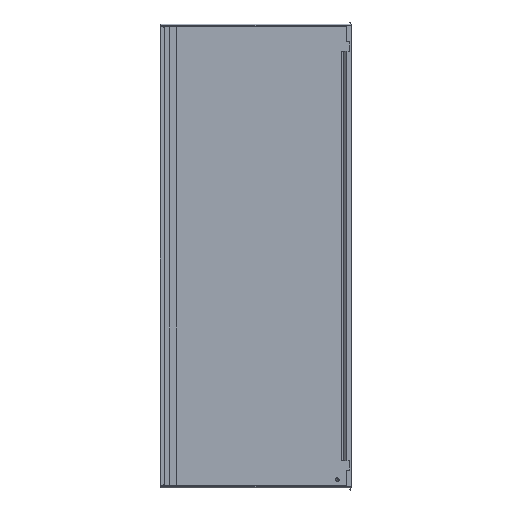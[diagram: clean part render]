
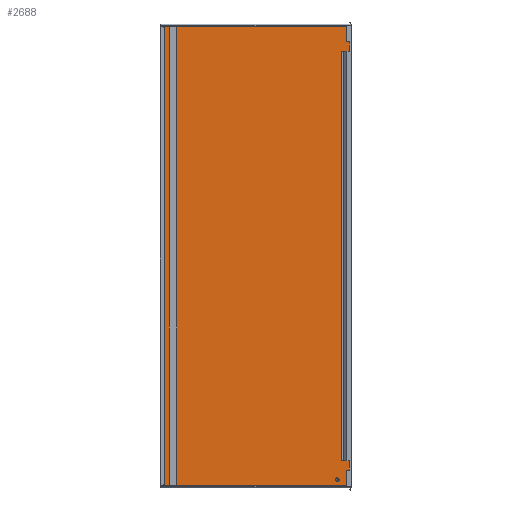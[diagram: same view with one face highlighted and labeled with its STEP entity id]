
A CAD part, top view. The second image highlights one B-rep face of the part: STEP entity #2688.
In plain terms, the highlighted planar face has unit normal (0, 0, 1).
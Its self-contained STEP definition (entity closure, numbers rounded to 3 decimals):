
#254 = ORIENTED_EDGE ( 'NONE', *, *, #3152, .F. ) ;
#255 = ORIENTED_EDGE ( 'NONE', *, *, #3153, .F. ) ;
#256 = ORIENTED_EDGE ( 'NONE', *, *, #3150, .F. ) ;
#257 = ORIENTED_EDGE ( 'NONE', *, *, #3156, .F. ) ;
#265 = ORIENTED_EDGE ( 'NONE', *, *, #3157, .F. ) ;
#266 = ORIENTED_EDGE ( 'NONE', *, *, #3159, .T. ) ;
#267 = ORIENTED_EDGE ( 'NONE', *, *, #3154, .T. ) ;
#268 = ORIENTED_EDGE ( 'NONE', *, *, #3160, .T. ) ;
#271 = ORIENTED_EDGE ( 'NONE', *, *, #3161, .T. ) ;
#272 = ORIENTED_EDGE ( 'NONE', *, *, #3163, .F. ) ;
#273 = ORIENTED_EDGE ( 'NONE', *, *, #3166, .F. ) ;
#274 = ORIENTED_EDGE ( 'NONE', *, *, #3164, .F. ) ;
#275 = ORIENTED_EDGE ( 'NONE', *, *, #3128, .F. ) ;
#277 = ORIENTED_EDGE ( 'NONE', *, *, #3168, .F. ) ;
#278 = ORIENTED_EDGE ( 'NONE', *, *, #3165, .F. ) ;
#280 = ORIENTED_EDGE ( 'NONE', *, *, #3171, .F. ) ;
#375 = EDGE_LOOP ( 'NONE', ( #254, #256, #255, #257 ) ) ;
#376 = EDGE_LOOP ( 'NONE', ( #265, #267, #266, #268, #271, #272 ) ) ;
#377 = EDGE_LOOP ( 'NONE', ( #274, #275 ) ) ;
#378 = EDGE_LOOP ( 'NONE', ( #273, #278, #277, #280 ) ) ;
#562 = VERTEX_POINT ( 'NONE', #3974 ) ;
#563 = VERTEX_POINT ( 'NONE', #3973 ) ;
#576 = VERTEX_POINT ( 'NONE', #3960 ) ;
#577 = VERTEX_POINT ( 'NONE', #3959 ) ;
#578 = VERTEX_POINT ( 'NONE', #3958 ) ;
#579 = VERTEX_POINT ( 'NONE', #3957 ) ;
#580 = VERTEX_POINT ( 'NONE', #3956 ) ;
#581 = VERTEX_POINT ( 'NONE', #3955 ) ;
#582 = VERTEX_POINT ( 'NONE', #3954 ) ;
#583 = VERTEX_POINT ( 'NONE', #3953 ) ;
#584 = VERTEX_POINT ( 'NONE', #3952 ) ;
#585 = VERTEX_POINT ( 'NONE', #3951 ) ;
#586 = VERTEX_POINT ( 'NONE', #3950 ) ;
#587 = VERTEX_POINT ( 'NONE', #3949 ) ;
#588 = VERTEX_POINT ( 'NONE', #3948 ) ;
#589 = VERTEX_POINT ( 'NONE', #3947 ) ;
#953 = FACE_BOUND ( 'NONE', #378, .T. ) ;
#956 = FACE_BOUND ( 'NONE', #377, .T. ) ;
#959 = FACE_BOUND ( 'NONE', #376, .T. ) ;
#961 = AXIS2_PLACEMENT_3D ( 'NONE', #4806, #4805, #4804 ) ;
#964 = FACE_OUTER_BOUND ( 'NONE', #375, .T. ) ;
#1178 = DIRECTION ( 'NONE',  ( 0., -1., 0. ) ) ;
#1179 = CARTESIAN_POINT ( 'NONE',  ( -324.6, -856.75, -12. ) ) ;
#1180 = LINE ( 'NONE', #1179, #4538 ) ;
#1187 = DIRECTION ( 'NONE',  ( 1., 0., 0. ) ) ;
#1188 = CARTESIAN_POINT ( 'NONE',  ( -324.6, -856.75, -12. ) ) ;
#1189 = LINE ( 'NONE', #1188, #4544 ) ;
#1193 = DIRECTION ( 'NONE',  ( -1., 0., 0. ) ) ;
#1194 = CARTESIAN_POINT ( 'NONE',  ( -324.6, 856.75, -12. ) ) ;
#1195 = LINE ( 'NONE', #1194, #4547 ) ;
#1196 = DIRECTION ( 'NONE',  ( 0., 1., 0. ) ) ;
#1197 = CARTESIAN_POINT ( 'NONE',  ( -295.5, -856.75, -12. ) ) ;
#1198 = LINE ( 'NONE', #1197, #4548 ) ;
#1200 = DIRECTION ( 'NONE',  ( 1., 0., 0. ) ) ;
#1201 = DIRECTION ( 'NONE',  ( 0., 0., 1. ) ) ;
#1202 = DIRECTION ( 'NONE',  ( -1., 0., 0. ) ) ;
#1203 = CARTESIAN_POINT ( 'NONE',  ( 326.879, 765.75, -12. ) ) ;
#1204 = LINE ( 'NONE', #1203, #4554 ) ;
#1208 = CARTESIAN_POINT ( 'NONE',  ( 304., -836.75, -12. ) ) ;
#1209 = DIRECTION ( 'NONE',  ( 1., 0., 0. ) ) ;
#1210 = DIRECTION ( 'NONE',  ( 0., 0., -1. ) ) ;
#1211 = DIRECTION ( 'NONE',  ( 0., 1., 0. ) ) ;
#1212 = CARTESIAN_POINT ( 'NONE',  ( 320.121, -788.171, -12. ) ) ;
#1213 = LINE ( 'NONE', #1212, #4562 ) ;
#1214 = CARTESIAN_POINT ( 'NONE',  ( 324.621, 761.25, -12. ) ) ;
#1215 = DIRECTION ( 'NONE',  ( 1., 0., 0. ) ) ;
#1216 = DIRECTION ( 'NONE',  ( 0., 0., -1. ) ) ;
#1217 = CARTESIAN_POINT ( 'NONE',  ( 324.621, -761.25, -12. ) ) ;
#1220 = DIRECTION ( 'NONE',  ( 0., 1., 0. ) ) ;
#1221 = CARTESIAN_POINT ( 'NONE',  ( 326.879, -788.171, -12. ) ) ;
#1222 = LINE ( 'NONE', #1221, #4566 ) ;
#1223 = DIRECTION ( 'NONE',  ( -1., 0., 0. ) ) ;
#1224 = CARTESIAN_POINT ( 'NONE',  ( 0., -863.75, -12. ) ) ;
#1225 = LINE ( 'NONE', #1224, #4567 ) ;
#1229 = DIRECTION ( 'NONE',  ( -1., 0., 0. ) ) ;
#1230 = CARTESIAN_POINT ( 'NONE',  ( 326.879, -765.75, -12. ) ) ;
#1231 = LINE ( 'NONE', #1230, #4569 ) ;
#1232 = DIRECTION ( 'NONE',  ( 0., 1., 0. ) ) ;
#1233 = CARTESIAN_POINT ( 'NONE',  ( -356., 0., -12. ) ) ;
#1234 = LINE ( 'NONE', #1233, #4574 ) ;
#1235 = DIRECTION ( 'NONE',  ( 0., -1., 0. ) ) ;
#1236 = CARTESIAN_POINT ( 'NONE',  ( 356., 0., -12. ) ) ;
#1237 = LINE ( 'NONE', #1236, #4576 ) ;
#1241 = DIRECTION ( 'NONE',  ( 1., 0., 0. ) ) ;
#1242 = CARTESIAN_POINT ( 'NONE',  ( 0., 863.75, -12. ) ) ;
#1243 = LINE ( 'NONE', #1242, #4582 ) ;
#1308 = DIRECTION ( 'NONE',  ( 1., 0., 0. ) ) ;
#1309 = DIRECTION ( 'NONE',  ( 0., 0., 1. ) ) ;
#1310 = CARTESIAN_POINT ( 'NONE',  ( 304., -836.75, -12. ) ) ;
#2482 = CIRCLE ( 'NONE', #4559, 0.25 ) ;
#2483 = CIRCLE ( 'NONE', #4596, 4.5 ) ;
#2484 = CIRCLE ( 'NONE', #4611, 4.5 ) ;
#2497 = CIRCLE ( 'NONE', #4401, 0.25 ) ;
#2688 = ADVANCED_FACE ( 'NONE', ( #964, #959, #956, #953 ), #4807, .T. ) ;
#3128 = EDGE_CURVE ( 'NONE', #562, #563, #2497, .T. ) ;
#3150 = EDGE_CURVE ( 'NONE', #578, #576, #1243, .T. ) ;
#3152 = EDGE_CURVE ( 'NONE', #576, #577, #1237, .T. ) ;
#3153 = EDGE_CURVE ( 'NONE', #579, #578, #1234, .T. ) ;
#3154 = EDGE_CURVE ( 'NONE', #580, #582, #1231, .T. ) ;
#3156 = EDGE_CURVE ( 'NONE', #577, #579, #1225, .T. ) ;
#3157 = EDGE_CURVE ( 'NONE', #580, #581, #1222, .T. ) ;
#3159 = EDGE_CURVE ( 'NONE', #582, #583, #2484, .T. ) ;
#3160 = EDGE_CURVE ( 'NONE', #583, #584, #1213, .T. ) ;
#3161 = EDGE_CURVE ( 'NONE', #584, #585, #2483, .T. ) ;
#3163 = EDGE_CURVE ( 'NONE', #581, #585, #1204, .T. ) ;
#3164 = EDGE_CURVE ( 'NONE', #563, #562, #2482, .T. ) ;
#3165 = EDGE_CURVE ( 'NONE', #588, #586, #1198, .T. ) ;
#3166 = EDGE_CURVE ( 'NONE', #586, #587, #1195, .T. ) ;
#3168 = EDGE_CURVE ( 'NONE', #589, #588, #1189, .T. ) ;
#3171 = EDGE_CURVE ( 'NONE', #587, #589, #1180, .T. ) ;
#3947 = CARTESIAN_POINT ( 'NONE',  ( -324.6, -856.75, -12. ) ) ;
#3948 = CARTESIAN_POINT ( 'NONE',  ( -295.5, -856.75, -12. ) ) ;
#3949 = CARTESIAN_POINT ( 'NONE',  ( -324.6, 856.75, -12. ) ) ;
#3950 = CARTESIAN_POINT ( 'NONE',  ( -295.5, 856.75, -12. ) ) ;
#3951 = CARTESIAN_POINT ( 'NONE',  ( 324.621, 765.75, -12. ) ) ;
#3952 = CARTESIAN_POINT ( 'NONE',  ( 320.121, 761.25, -12. ) ) ;
#3953 = CARTESIAN_POINT ( 'NONE',  ( 320.121, -761.25, -12. ) ) ;
#3954 = CARTESIAN_POINT ( 'NONE',  ( 324.621, -765.75, -12. ) ) ;
#3955 = CARTESIAN_POINT ( 'NONE',  ( 326.879, 765.75, -12. ) ) ;
#3956 = CARTESIAN_POINT ( 'NONE',  ( 326.879, -765.75, -12. ) ) ;
#3957 = CARTESIAN_POINT ( 'NONE',  ( -356., -863.75, -12. ) ) ;
#3958 = CARTESIAN_POINT ( 'NONE',  ( -356., 863.75, -12. ) ) ;
#3959 = CARTESIAN_POINT ( 'NONE',  ( 356., -863.75, -12. ) ) ;
#3960 = CARTESIAN_POINT ( 'NONE',  ( 356., 863.75, -12. ) ) ;
#3973 = CARTESIAN_POINT ( 'NONE',  ( 304.25, -836.75, -12. ) ) ;
#3974 = CARTESIAN_POINT ( 'NONE',  ( 303.75, -836.75, -12. ) ) ;
#4401 = AXIS2_PLACEMENT_3D ( 'NONE', #1310, #1309, #1308 ) ;
#4538 = VECTOR ( 'NONE', #1178, 1000. ) ;
#4544 = VECTOR ( 'NONE', #1187, 1000. ) ;
#4547 = VECTOR ( 'NONE', #1193, 1000. ) ;
#4548 = VECTOR ( 'NONE', #1196, 1000. ) ;
#4554 = VECTOR ( 'NONE', #1202, 1000. ) ;
#4559 = AXIS2_PLACEMENT_3D ( 'NONE', #1208, #1201, #1200 ) ;
#4562 = VECTOR ( 'NONE', #1211, 1000. ) ;
#4566 = VECTOR ( 'NONE', #1220, 1000. ) ;
#4567 = VECTOR ( 'NONE', #1223, 1000. ) ;
#4569 = VECTOR ( 'NONE', #1229, 1000. ) ;
#4574 = VECTOR ( 'NONE', #1232, 1000. ) ;
#4576 = VECTOR ( 'NONE', #1235, 1000. ) ;
#4582 = VECTOR ( 'NONE', #1241, 1000. ) ;
#4596 = AXIS2_PLACEMENT_3D ( 'NONE', #1214, #1210, #1209 ) ;
#4611 = AXIS2_PLACEMENT_3D ( 'NONE', #1217, #1216, #1215 ) ;
#4804 = DIRECTION ( 'NONE',  ( 1., 0., 0. ) ) ;
#4805 = DIRECTION ( 'NONE',  ( 0., 0., 1. ) ) ;
#4806 = CARTESIAN_POINT ( 'NONE',  ( 0., 0., -12. ) ) ;
#4807 = PLANE ( 'NONE',  #961 ) ;
